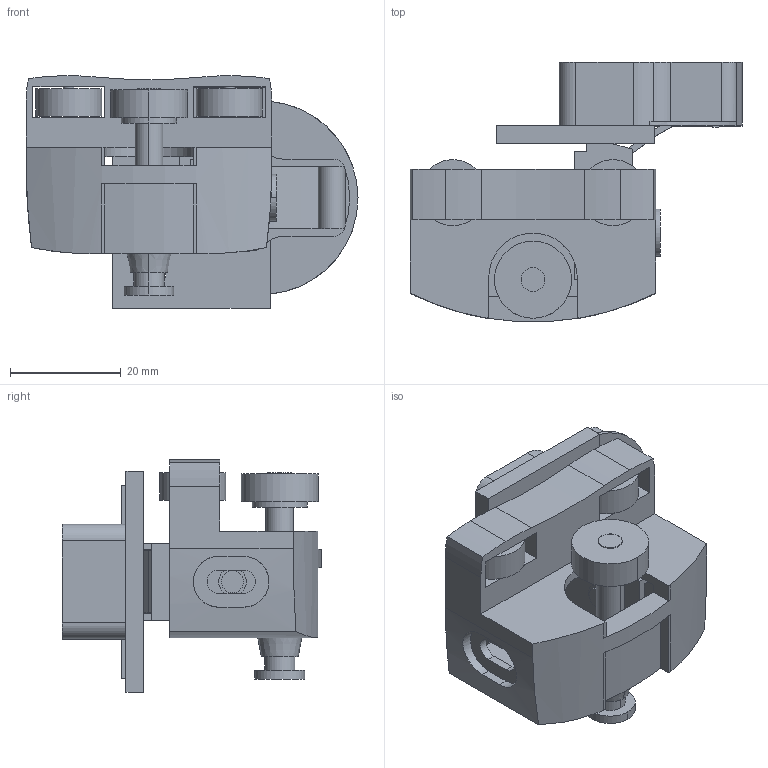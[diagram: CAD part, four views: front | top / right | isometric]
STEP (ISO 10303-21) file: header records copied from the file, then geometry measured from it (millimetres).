
FILE_DESCRIPTION( ( '' ), '1' );
FILE_NAME( 'C:/Users/dhek/Desktop/New folder/SAT., STP., IGS/Wingline L/9237432.stp', '2017-09-14T10:43:12', ( '' ), ( '' ), ' ', ' ', ' ' );
FILE_SCHEMA( ( 'CONFIG_CONTROL_DESIGN' ) );
Length unit declared in the file: millimetre
Products named in the file (1): 1
Bounding box: 60.07 x 46.9 x 42.08 mm (x, y, z)
Volume: 19957.6 mm3; surface area: 19718.7 mm2
Topology: 1 solids, 1 shells, 239 faces, 702 edges, 468 vertices
Faces by surface type: plane 137, cylinder 100, cone 2
Entity records: 8387 total; most frequent: CARTESIAN_POINT 1676, ORIENTED_EDGE 1404, DIRECTION 1393, EDGE_CURVE 702, VERTEX_POINT 468, AXIS2_PLACEMENT_3D 465, LINE 463, VECTOR 463
